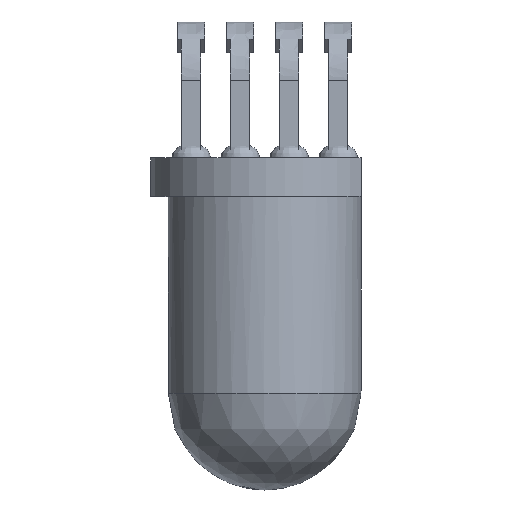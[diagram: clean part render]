
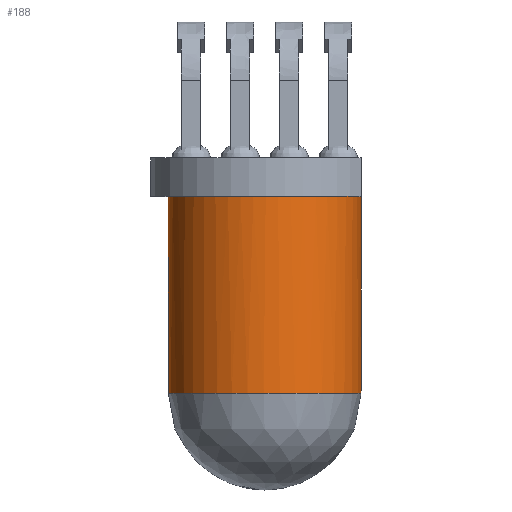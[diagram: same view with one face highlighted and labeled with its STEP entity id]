
A CAD part, top view. The second image highlights one B-rep face of the part: STEP entity #188.
In plain terms, the highlighted cylindrical face has radius 2.5 mm (diameter 5 mm), a full revolution.
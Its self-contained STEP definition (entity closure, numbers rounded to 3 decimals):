
#20=CYLINDRICAL_SURFACE('',#1388,2.5);
#35=(
BOUNDED_CURVE()
B_SPLINE_CURVE(2,(#4857,#4858,#4859,#4860,#4861,#4862,#4863),
 .UNSPECIFIED.,.F.,.F.)
B_SPLINE_CURVE_WITH_KNOTS((3,2,2,3),(-15.708,-11.781,
-7.854,-3.927),.UNSPECIFIED.)
CURVE()
GEOMETRIC_REPRESENTATION_ITEM()
RATIONAL_B_SPLINE_CURVE((1.,0.707,1.,0.707,1.,0.707,
1.))
REPRESENTATION_ITEM('')
);
#36=(
BOUNDED_CURVE()
B_SPLINE_CURVE(1,(#4864,#4865),.UNSPECIFIED.,.F.,.F.)
B_SPLINE_CURVE_WITH_KNOTS((2,2),(1.,6.1),.UNSPECIFIED.)
CURVE()
GEOMETRIC_REPRESENTATION_ITEM()
RATIONAL_B_SPLINE_CURVE((1.,1.))
REPRESENTATION_ITEM('')
);
#41=(
BOUNDED_CURVE()
B_SPLINE_CURVE(2,(#4890,#4891,#4892),.UNSPECIFIED.,.F.,.F.)
B_SPLINE_CURVE_WITH_KNOTS((3,3),(-3.927,0.),.UNSPECIFIED.)
CURVE()
GEOMETRIC_REPRESENTATION_ITEM()
RATIONAL_B_SPLINE_CURVE((1.,0.707,1.))
REPRESENTATION_ITEM('')
);
#42=(
BOUNDED_CURVE()
B_SPLINE_CURVE(2,(#4893,#4894,#4895,#4896,#4897,#4898,#4899,#4900,#4901,
#4902,#4903),.UNSPECIFIED.,.T.,.F.)
B_SPLINE_CURVE_WITH_KNOTS((3,2,2,2,2,3),(-15.708,-12.763,
-9.817,-6.872,-3.927,0.),.UNSPECIFIED.)
CURVE()
GEOMETRIC_REPRESENTATION_ITEM()
RATIONAL_B_SPLINE_CURVE((1.,0.831,1.,0.831,1.,0.831,
1.,0.831,1.,0.707,1.))
REPRESENTATION_ITEM('')
);
#188=ADVANCED_FACE('',(#268),#20,.T.);
#268=FACE_OUTER_BOUND('',#352,.T.);
#352=EDGE_LOOP('',(#723,#724,#725,#726,#727));
#723=ORIENTED_EDGE('',*,*,#926,.F.);
#724=ORIENTED_EDGE('',*,*,#934,.F.);
#725=ORIENTED_EDGE('',*,*,#925,.F.);
#726=ORIENTED_EDGE('',*,*,#926,.T.);
#727=ORIENTED_EDGE('',*,*,#935,.T.);
#925=EDGE_CURVE('',#1240,#1245,#35,.T.);
#926=EDGE_CURVE('',#1240,#1239,#36,.T.);
#934=EDGE_CURVE('',#1245,#1240,#41,.T.);
#935=EDGE_CURVE('',#1239,#1239,#42,.T.);
#1239=VERTEX_POINT('',#4823);
#1240=VERTEX_POINT('',#4824);
#1245=VERTEX_POINT('',#4829);
#1388=AXIS2_PLACEMENT_3D('',#4767,#1442,$);
#1442=DIRECTION('',(0.,-1.,0.));
#4767=CARTESIAN_POINT('',(70.,-8.5,10.));
#4823=CARTESIAN_POINT('',(70.,-8.1,7.5));
#4824=CARTESIAN_POINT('',(70.,-3.,7.5));
#4829=CARTESIAN_POINT('',(72.5,-3.,10.));
#4857=CARTESIAN_POINT('',(70.,-3.,7.5));
#4858=CARTESIAN_POINT('',(67.5,-3.,7.5));
#4859=CARTESIAN_POINT('',(67.5,-3.,10.));
#4860=CARTESIAN_POINT('',(67.5,-3.,12.5));
#4861=CARTESIAN_POINT('',(70.,-3.,12.5));
#4862=CARTESIAN_POINT('',(72.5,-3.,12.5));
#4863=CARTESIAN_POINT('',(72.5,-3.,10.));
#4864=CARTESIAN_POINT('',(70.,-3.,7.5));
#4865=CARTESIAN_POINT('',(70.,-8.1,7.5));
#4890=CARTESIAN_POINT('',(72.5,-3.,10.));
#4891=CARTESIAN_POINT('',(72.5,-3.,7.5));
#4892=CARTESIAN_POINT('',(70.,-3.,7.5));
#4893=CARTESIAN_POINT('',(70.,-8.1,7.5));
#4894=CARTESIAN_POINT('',(68.33,-8.1,7.5));
#4895=CARTESIAN_POINT('',(67.69,-8.1,9.043));
#4896=CARTESIAN_POINT('',(67.051,-8.1,10.587));
#4897=CARTESIAN_POINT('',(68.232,-8.1,11.768));
#4898=CARTESIAN_POINT('',(69.413,-8.1,12.949));
#4899=CARTESIAN_POINT('',(70.957,-8.1,12.31));
#4900=CARTESIAN_POINT('',(72.5,-8.1,11.67));
#4901=CARTESIAN_POINT('',(72.5,-8.1,10.));
#4902=CARTESIAN_POINT('',(72.5,-8.1,7.5));
#4903=CARTESIAN_POINT('',(70.,-8.1,7.5));
